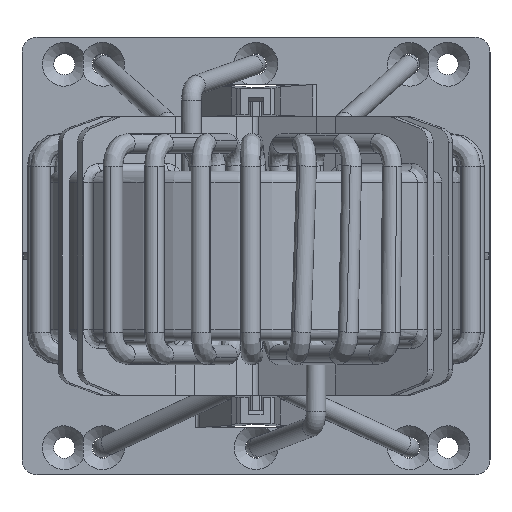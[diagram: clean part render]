
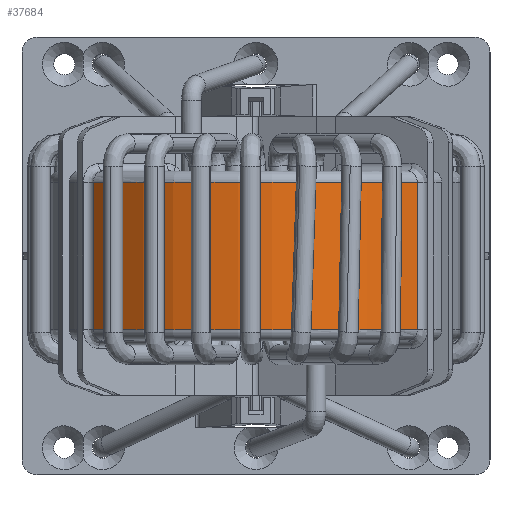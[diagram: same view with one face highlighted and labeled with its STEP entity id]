
A CAD part, front view. The second image highlights one B-rep face of the part: STEP entity #37684.
In plain terms, the highlighted cylindrical face has radius 27.45 mm (diameter 54.9 mm), a partial arc.
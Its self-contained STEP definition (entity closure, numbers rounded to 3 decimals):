
#37456=CARTESIAN_POINT('',(-21.589,-16.795,3.704));
#37457=VERTEX_POINT('',#37456);
#37482=CARTESIAN_POINT('',(-21.589,-16.795,23.204));
#37483=VERTEX_POINT('',#37482);
#37493=CARTESIAN_POINT('',(-21.589,-16.795,3.704));
#37494=DIRECTION('',(0.0,0.0,1.0));
#37495=VECTOR('',#37494,19.5);
#37496=LINE('',#37493,#37495);
#37497=EDGE_CURVE('',#37457,#37483,#37496,.T.);
#37638=CARTESIAN_POINT('',(21.331,-16.923,23.204));
#37639=VERTEX_POINT('',#37638);
#37640=CARTESIAN_POINT('',(-0.078,0.258,23.204));
#37641=DIRECTION('',(0.,0.,1.));
#37642=DIRECTION('',(-0.003,-1.,0.));
#37643=AXIS2_PLACEMENT_3D('',#37640,#37641,#37642);
#37644=CIRCLE('',#37643,27.45);
#37645=EDGE_CURVE('',#37483,#37639,#37644,.T.);
#37660=CARTESIAN_POINT('',(-0.078,0.258,13.454));
#37661=DIRECTION('',(0.0,0.0,-1.0));
#37662=DIRECTION('',(-0.868,-0.497,0.));
#37663=AXIS2_PLACEMENT_3D('',#37660,#37661,#37662);
#37664=CYLINDRICAL_SURFACE('',#37663,27.45);
#37665=ORIENTED_EDGE('',*,*,#37497,.F.);
#37666=CARTESIAN_POINT('',(21.331,-16.923,3.704));
#37667=VERTEX_POINT('',#37666);
#37668=CARTESIAN_POINT('',(-0.078,0.258,3.704));
#37669=DIRECTION('',(0.,0.,-1.));
#37670=DIRECTION('',(-0.003,-1.,0.));
#37671=AXIS2_PLACEMENT_3D('',#37668,#37669,#37670);
#37672=CIRCLE('',#37671,27.45);
#37673=EDGE_CURVE('',#37667,#37457,#37672,.T.);
#37674=ORIENTED_EDGE('',*,*,#37673,.F.);
#37675=CARTESIAN_POINT('',(21.331,-16.923,23.204));
#37676=DIRECTION('',(0.0,0.0,-1.0));
#37677=VECTOR('',#37676,19.5);
#37678=LINE('',#37675,#37677);
#37679=EDGE_CURVE('',#37639,#37667,#37678,.T.);
#37680=ORIENTED_EDGE('',*,*,#37679,.F.);
#37681=ORIENTED_EDGE('',*,*,#37645,.F.);
#37682=EDGE_LOOP('',(#37665,#37674,#37680,#37681));
#37683=FACE_OUTER_BOUND('',#37682,.T.);
#37684=ADVANCED_FACE('',(#37683),#37664,.T.);
